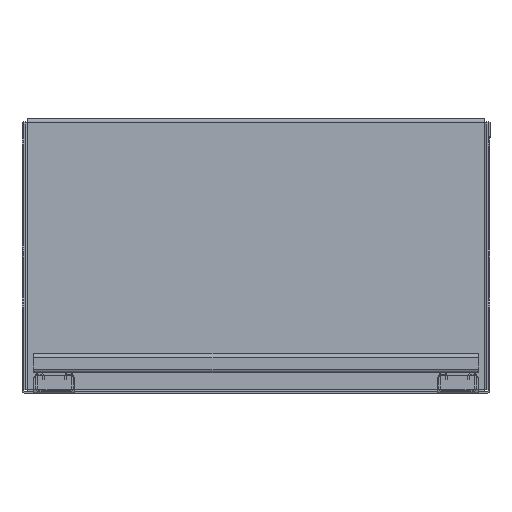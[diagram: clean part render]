
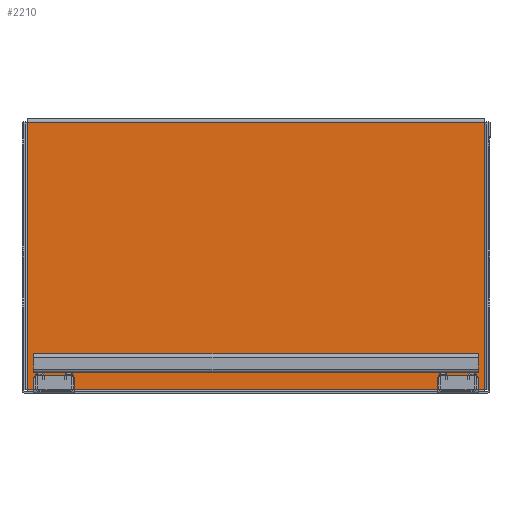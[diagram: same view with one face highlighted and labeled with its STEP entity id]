
A CAD part, front view. The second image highlights one B-rep face of the part: STEP entity #2210.
In plain terms, the highlighted planar face has unit normal (0, -1, 0.018).
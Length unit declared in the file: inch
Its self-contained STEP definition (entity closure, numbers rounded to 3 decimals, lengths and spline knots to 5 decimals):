
#540 = LINE ( 'NONE', #4673, #542 ) ;
#542 = VECTOR ( 'NONE', #5012, 39.37008 ) ;
#617 = CARTESIAN_POINT ( 'NONE',  ( -9.76893, 10.12919, 11.52686 ) ) ;
#871 = CARTESIAN_POINT ( 'NONE',  ( -9.76893, 9.92936, 0.0786 ) ) ;
#1694 = ORIENTED_EDGE ( 'NONE', *, *, #2920, .F. ) ;
#1696 = ORIENTED_EDGE ( 'NONE', *, *, #3317, .T. ) ;
#1921 = EDGE_LOOP ( 'NONE', ( #2056, #2057, #1694, #1696 ) ) ;
#2056 = ORIENTED_EDGE ( 'NONE', *, *, #6395, .F. ) ;
#2057 = ORIENTED_EDGE ( 'NONE', *, *, #6426, .F. ) ;
#2124 = FACE_OUTER_BOUND ( 'NONE', #1921, .T. ) ;
#2210 = ADVANCED_FACE ( 'NONE', ( #2124 ), #2686, .F. ) ;
#2551 = VERTEX_POINT ( 'NONE', #871 ) ;
#2682 = DIRECTION ( 'NONE',  ( 0., 1., -0.017 ) ) ;
#2686 = PLANE ( 'NONE',  #3343 ) ;
#2731 = VERTEX_POINT ( 'NONE', #617 ) ;
#2738 = CARTESIAN_POINT ( 'NONE',  ( -10., 9.92799, 0. ) ) ;
#2777 = DIRECTION ( 'NONE',  ( 0., 0.017, 1. ) ) ;
#2790 = VERTEX_POINT ( 'NONE', #5313 ) ;
#2855 = VERTEX_POINT ( 'NONE', #5289 ) ;
#2920 = EDGE_CURVE ( 'NONE', #2855, #2790, #540, .T. ) ;
#3317 = EDGE_CURVE ( 'NONE', #2855, #2731, #5843, .T. ) ;
#3343 = AXIS2_PLACEMENT_3D ( 'NONE', #2738, #2682, #2777 ) ;
#4180 = CARTESIAN_POINT ( 'NONE',  ( 9.92093, 10.12919, 11.52686 ) ) ;
#4201 = DIRECTION ( 'NONE',  ( -1., 0., 0. ) ) ;
#4239 = CARTESIAN_POINT ( 'NONE',  ( -9.76893, 9.92936, 0.0786 ) ) ;
#4240 = DIRECTION ( 'NONE',  ( 0., 0.017, 1. ) ) ;
#4337 = CARTESIAN_POINT ( 'NONE',  ( 10., 9.92936, 0.0786 ) ) ;
#4338 = DIRECTION ( 'NONE',  ( -1., 0., 0. ) ) ;
#4673 = CARTESIAN_POINT ( 'NONE',  ( 9.76893, 10.12919, 11.52686 ) ) ;
#5012 = DIRECTION ( 'NONE',  ( 0., -0.017, -1. ) ) ;
#5289 = CARTESIAN_POINT ( 'NONE',  ( 9.76893, 10.12919, 11.52686 ) ) ;
#5313 = CARTESIAN_POINT ( 'NONE',  ( 9.76893, 9.92936, 0.0786 ) ) ;
#5843 = LINE ( 'NONE', #4180, #5865 ) ;
#5865 = VECTOR ( 'NONE', #4201, 39.37008 ) ;
#5871 = VECTOR ( 'NONE', #4240, 39.37008 ) ;
#5881 = LINE ( 'NONE', #4239, #5871 ) ;
#5921 = LINE ( 'NONE', #4337, #5922 ) ;
#5922 = VECTOR ( 'NONE', #4338, 39.37008 ) ;
#6395 = EDGE_CURVE ( 'NONE', #2551, #2731, #5881, .T. ) ;
#6426 = EDGE_CURVE ( 'NONE', #2790, #2551, #5921, .T. ) ;
